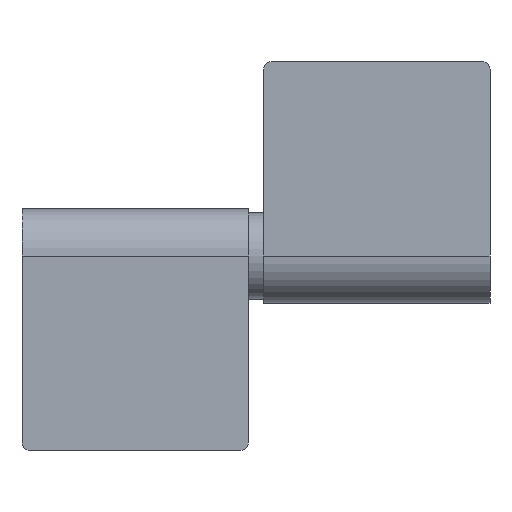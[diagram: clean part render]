
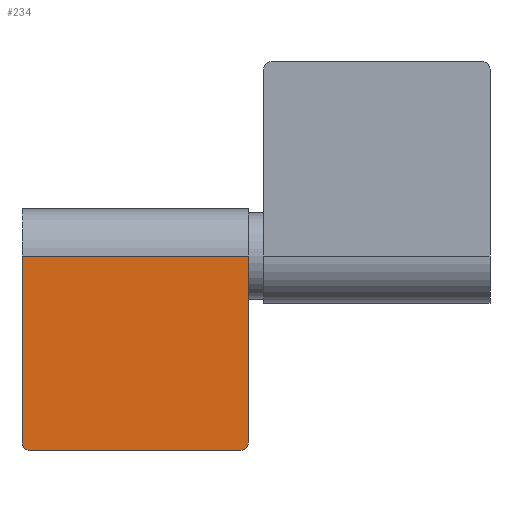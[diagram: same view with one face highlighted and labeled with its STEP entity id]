
A CAD part, front view. The second image highlights one B-rep face of the part: STEP entity #234.
In plain terms, the highlighted planar face has unit normal (0, -1, 0).
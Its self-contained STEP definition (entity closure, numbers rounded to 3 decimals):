
#23 = CARTESIAN_POINT ( 'NONE',  ( 15., 0., -25.75 ) ) ;
#41 = ORIENTED_EDGE ( 'NONE', *, *, #267, .T. ) ;
#60 = DIRECTION ( 'NONE',  ( 0., 0., 1. ) ) ;
#63 = VERTEX_POINT ( 'NONE', #107 ) ;
#67 = ORIENTED_EDGE ( 'NONE', *, *, #499, .T. ) ;
#69 = DIRECTION ( 'NONE',  ( 0., 1., 0. ) ) ;
#70 = AXIS2_PLACEMENT_3D ( 'NONE', #393, #471, #99 ) ;
#97 = LINE ( 'NONE', #622, #319 ) ;
#99 = DIRECTION ( 'NONE',  ( 0., 0., 1. ) ) ;
#107 = CARTESIAN_POINT ( 'NONE',  ( 15., 0., -24.75 ) ) ;
#154 = VERTEX_POINT ( 'NONE', #675 ) ;
#160 = DIRECTION ( 'NONE',  ( 0., 0., 1. ) ) ;
#232 = DIRECTION ( 'NONE',  ( -1., 0., 0. ) ) ;
#234 = ADVANCED_FACE ( 'NONE', ( #435 ), #508, .F. ) ;
#246 = CIRCLE ( 'NONE', #905, 1. ) ;
#249 = DIRECTION ( 'NONE',  ( 0., -1., 0. ) ) ;
#267 = EDGE_CURVE ( 'NONE', #154, #683, #442, .T. ) ;
#270 = ORIENTED_EDGE ( 'NONE', *, *, #854, .T. ) ;
#295 = DIRECTION ( 'NONE',  ( 0., 0., -1. ) ) ;
#319 = VECTOR ( 'NONE', #232, 1000. ) ;
#335 = AXIS2_PLACEMENT_3D ( 'NONE', #368, #69, #60 ) ;
#363 = EDGE_CURVE ( 'NONE', #946, #63, #774, .T. ) ;
#368 = CARTESIAN_POINT ( 'NONE',  ( 15., 0., 0. ) ) ;
#393 = CARTESIAN_POINT ( 'NONE',  ( 14., 0., -24.75 ) ) ;
#413 = VECTOR ( 'NONE', #547, 1000. ) ;
#435 = FACE_OUTER_BOUND ( 'NONE', #806, .T. ) ;
#442 = LINE ( 'NONE', #971, #947 ) ;
#464 = EDGE_CURVE ( 'NONE', #719, #63, #853, .T. ) ;
#471 = DIRECTION ( 'NONE',  ( 0., -1., 0. ) ) ;
#499 = EDGE_CURVE ( 'NONE', #946, #154, #97, .T. ) ;
#508 = PLANE ( 'NONE',  #335 ) ;
#547 = DIRECTION ( 'NONE',  ( -1., 0., 0. ) ) ;
#555 = CARTESIAN_POINT ( 'NONE',  ( -14., 0., -25.75 ) ) ;
#583 = VERTEX_POINT ( 'NONE', #555 ) ;
#622 = CARTESIAN_POINT ( 'NONE',  ( 15., 0., 0. ) ) ;
#675 = CARTESIAN_POINT ( 'NONE',  ( -15., 0., 0. ) ) ;
#683 = VERTEX_POINT ( 'NONE', #744 ) ;
#689 = DIRECTION ( 'NONE',  ( 0., 0., -1. ) ) ;
#719 = VERTEX_POINT ( 'NONE', #726 ) ;
#726 = CARTESIAN_POINT ( 'NONE',  ( 14., 0., -25.75 ) ) ;
#744 = CARTESIAN_POINT ( 'NONE',  ( -15., 0., -24.75 ) ) ;
#758 = CARTESIAN_POINT ( 'NONE',  ( 15., 0., 0. ) ) ;
#771 = CARTESIAN_POINT ( 'NONE',  ( 15., 0., 0. ) ) ;
#773 = LINE ( 'NONE', #23, #413 ) ;
#774 = LINE ( 'NONE', #771, #778 ) ;
#778 = VECTOR ( 'NONE', #689, 1000. ) ;
#787 = ORIENTED_EDGE ( 'NONE', *, *, #893, .F. ) ;
#806 = EDGE_LOOP ( 'NONE', ( #41, #270, #787, #967, #907, #67 ) ) ;
#835 = CARTESIAN_POINT ( 'NONE',  ( -14., 0., -24.75 ) ) ;
#853 = CIRCLE ( 'NONE', #70, 1. ) ;
#854 = EDGE_CURVE ( 'NONE', #683, #583, #246, .T. ) ;
#893 = EDGE_CURVE ( 'NONE', #719, #583, #773, .T. ) ;
#905 = AXIS2_PLACEMENT_3D ( 'NONE', #835, #249, #160 ) ;
#907 = ORIENTED_EDGE ( 'NONE', *, *, #363, .F. ) ;
#946 = VERTEX_POINT ( 'NONE', #758 ) ;
#947 = VECTOR ( 'NONE', #295, 1000. ) ;
#967 = ORIENTED_EDGE ( 'NONE', *, *, #464, .T. ) ;
#971 = CARTESIAN_POINT ( 'NONE',  ( -15., 0., 0. ) ) ;
